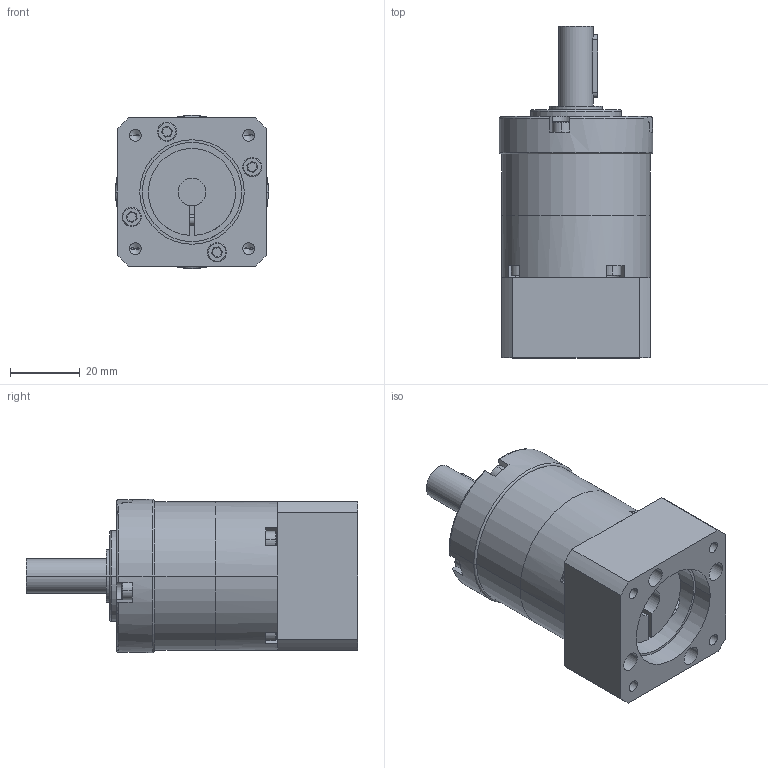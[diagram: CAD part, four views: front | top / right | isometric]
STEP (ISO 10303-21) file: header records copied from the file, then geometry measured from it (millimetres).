
FILE_DESCRIPTION (( 'STEP AP203' ), '1' );
FILE_NAME ('1G1XS.030042.112.STEP', '2020-08-31T02:19:28', ( '' ), ( '' ), 'SwSTEP 2.0', 'SolidWorks 2010', '' );
FILE_SCHEMA (( 'CONFIG_CONTROL_DESIGN' ));
Length unit declared in the file: millimetre
Products named in the file (10): PAN17-BP(單段模型)_1.A8; M3､ｺ､ｻｨ､ﾁｳｵｷ[ｼﾒｲﾕ､ﾆ]06~60mm_10mm; 1G1XS.030042.112; PNS40-FP(縮短模型)_4.成品; PNS40-B(模型)_5.成品; M3､ｺ､ｻｨ､ﾁｳｵｷ[ｼﾒｲﾕ､ﾆ]06~60mm_20mm; 234BN11214_4.成品; M3､ｺ､ｻｨ､ﾁｳｵｷ[ｼﾒｲﾕ､ﾆ]06~60mm_12mm; 雙圓鍵3x3X18; M3､ｺ､ｻｨ､ﾁｳｵｷ[ｼﾒｲﾕ､ﾆ]06~60mm_14mm
Assembly tree (18 placements, depth 2):
  1G1XS.030042.112
    M3､ｺ､ｻｨ､ﾁｳｵｷ[ｼﾒｲﾕ､ﾆ]06~60mm_14mm  x4
    M3､ｺ､ｻｨ､ﾁｳｵｷ[ｼﾒｲﾕ､ﾆ]06~60mm_20mm  x4
    M3､ｺ､ｻｨ､ﾁｳｵｷ[ｼﾒｲﾕ､ﾆ]06~60mm_10mm  x4
    PNS40-FP(縮短模型)_4.成品
    234BN11214_4.成品
    PAN17-BP(單段模型)_1.A8
    M3､ｺ､ｻｨ､ﾁｳｵｷ[ｼﾒｲﾕ､ﾆ]06~60mm_12mm
    PNS40-B(模型)_5.成品
    雙圓鍵3x3X18
Bounding box: 44 x 95.3 x 44 mm (x, y, z)
Volume: 96742.2 mm3; surface area: 35742.9 mm2
Topology: 18 solids, 18 shells, 592 faces, 1373 edges, 838 vertices
Faces by surface type: plane 276, cylinder 206, cone 96, torus 14
Entity records: 12622 total; most frequent: CARTESIAN_POINT 2192, DIRECTION 2076, ORIENTED_EDGE 1778, EDGE_CURVE 889, AXIS2_PLACEMENT_3D 816, VERTEX_POINT 568, EDGE_LOOP 453, LINE 444
